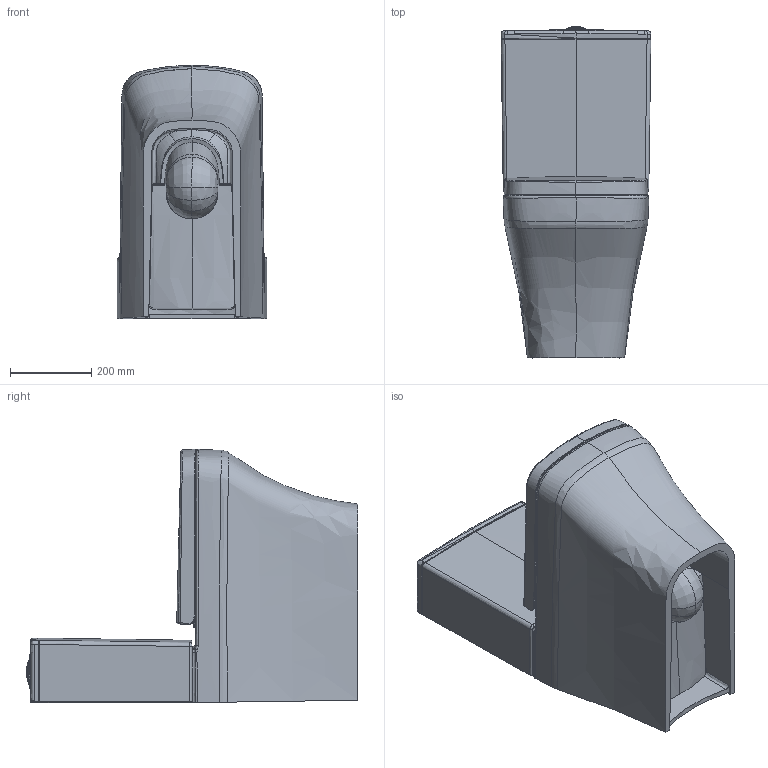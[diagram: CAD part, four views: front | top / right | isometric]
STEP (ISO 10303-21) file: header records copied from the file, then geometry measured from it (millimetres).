
FILE_DESCRIPTION (( 'STEP AP203' ), '1' );
FILE_NAME ('SO361 REW08082018-menteþeli.STEP', '2018-08-14T11:48:34', ( '' ), ( '' ), 'SwSTEP 2.0', 'SolidWorks 2018', '' );
FILE_SCHEMA (( 'CONFIG_CONTROL_DESIGN' ));
Products named in the file (1): SO361 REW08082018-menteþeli
Bounding box: 369.72 x 818.87 x 624.98 mm (x, y, z)
Volume: 32312290.3 mm3; surface area: 3563208.5 mm2
Topology: 19 solids, 19 shells, 1304 faces, 3439 edges, 2205 vertices
Faces by surface type: bspline 564, plane 319, cylinder 303, torus 71, cone 47
Entity records: 261552 total; most frequent: CARTESIAN_POINT 234224, ORIENTED_EDGE 6840, DIRECTION 3960, EDGE_CURVE 3420, VERTEX_POINT 2206, B_SPLINE_CURVE_WITH_KNOTS 1647, AXIS2_PLACEMENT_3D 1553, EDGE_LOOP 1382
